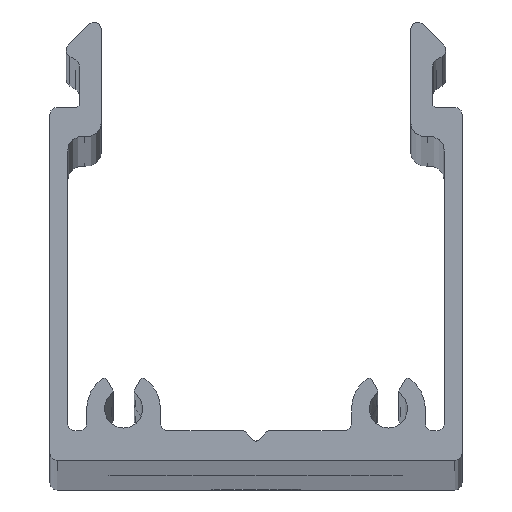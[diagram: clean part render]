
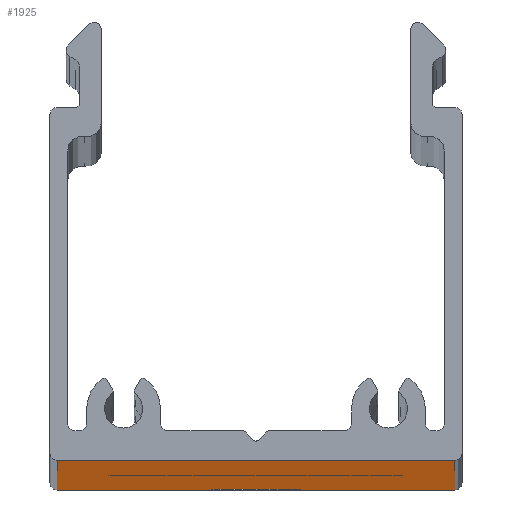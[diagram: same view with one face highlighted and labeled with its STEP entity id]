
A CAD part, top view. The second image highlights one B-rep face of the part: STEP entity #1925.
In plain terms, the highlighted planar face has unit normal (0, -1, 0).
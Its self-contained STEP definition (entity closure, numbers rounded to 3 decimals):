
#20=CIRCLE('',#2049,3.);
#21=CIRCLE('',#2050,3.);
#22=CIRCLE('',#2051,10.);
#129=PLANE('',#2048);
#180=LINE('',#2919,#342);
#181=LINE('',#2922,#343);
#182=LINE('',#2924,#344);
#183=LINE('',#2926,#345);
#342=VECTOR('',#2289,1000.);
#343=VECTOR('',#2290,1000.);
#344=VECTOR('',#2291,1000.);
#345=VECTOR('',#2292,1000.);
#532=ORIENTED_EDGE('',*,*,#1130,.T.);
#533=ORIENTED_EDGE('',*,*,#1131,.F.);
#534=ORIENTED_EDGE('',*,*,#1132,.F.);
#535=ORIENTED_EDGE('',*,*,#1133,.T.);
#536=ORIENTED_EDGE('',*,*,#1134,.T.);
#537=ORIENTED_EDGE('',*,*,#1135,.T.);
#538=ORIENTED_EDGE('',*,*,#1136,.T.);
#1130=EDGE_CURVE('',#1425,#1426,#180,.T.);
#1131=EDGE_CURVE('',#1427,#1426,#181,.T.);
#1132=EDGE_CURVE('',#1428,#1427,#182,.T.);
#1133=EDGE_CURVE('',#1428,#1425,#183,.T.);
#1134=EDGE_CURVE('',#1429,#1429,#20,.T.);
#1135=EDGE_CURVE('',#1430,#1430,#21,.T.);
#1136=EDGE_CURVE('',#1431,#1431,#22,.T.);
#1425=VERTEX_POINT('',#2920);
#1426=VERTEX_POINT('',#2921);
#1427=VERTEX_POINT('',#2923);
#1428=VERTEX_POINT('',#2925);
#1429=VERTEX_POINT('',#2928);
#1430=VERTEX_POINT('',#2930);
#1431=VERTEX_POINT('',#2932);
#1650=EDGE_LOOP('',(#532,#533,#534,#535));
#1651=EDGE_LOOP('',(#536));
#1652=EDGE_LOOP('',(#537));
#1653=EDGE_LOOP('',(#538));
#1758=FACE_BOUND('',#1650,.T.);
#1759=FACE_BOUND('',#1651,.T.);
#1760=FACE_BOUND('',#1652,.T.);
#1761=FACE_BOUND('',#1653,.T.);
#1925=ADVANCED_FACE('',(#1758,#1759,#1760,#1761),#129,.F.);
#2048=AXIS2_PLACEMENT_3D('',#2918,#2287,#2288);
#2049=AXIS2_PLACEMENT_3D('',#2927,#2293,#2294);
#2050=AXIS2_PLACEMENT_3D('',#2929,#2295,#2296);
#2051=AXIS2_PLACEMENT_3D('',#2931,#2297,#2298);
#2287=DIRECTION('',(0.,1.,0.));
#2288=DIRECTION('',(-1.,0.,0.));
#2289=DIRECTION('',(1.,0.,0.));
#2290=DIRECTION('',(0.,0.,-1.));
#2291=DIRECTION('',(1.,0.,0.));
#2292=DIRECTION('',(0.,0.,-1.));
#2293=DIRECTION('',(0.,1.,0.));
#2294=DIRECTION('',(1.,0.,0.));
#2295=DIRECTION('',(0.,1.,0.));
#2296=DIRECTION('',(1.,0.,0.));
#2297=DIRECTION('',(0.,1.,0.));
#2298=DIRECTION('',(0.,0.,-1.));
#2918=CARTESIAN_POINT('',(-13.5,-32.,576.5));
#2919=CARTESIAN_POINT('',(-13.5,-32.,-576.5));
#2920=CARTESIAN_POINT('',(-13.5,-32.,-576.5));
#2921=CARTESIAN_POINT('',(13.5,-32.,-576.5));
#2922=CARTESIAN_POINT('',(13.5,-32.,576.5));
#2923=CARTESIAN_POINT('',(13.5,-32.,576.5));
#2924=CARTESIAN_POINT('',(-13.5,-32.,576.5));
#2925=CARTESIAN_POINT('',(-13.5,-32.,576.5));
#2926=CARTESIAN_POINT('',(-13.5,-32.,576.5));
#2927=CARTESIAN_POINT('',(0.,-32.,556.5));
#2928=CARTESIAN_POINT('',(3.,-32.,556.5));
#2929=CARTESIAN_POINT('',(0.,-32.,-556.5));
#2930=CARTESIAN_POINT('',(3.,-32.,-556.5));
#2931=CARTESIAN_POINT('',(0.,-32.,0.));
#2932=CARTESIAN_POINT('',(0.,-32.,-10.));
